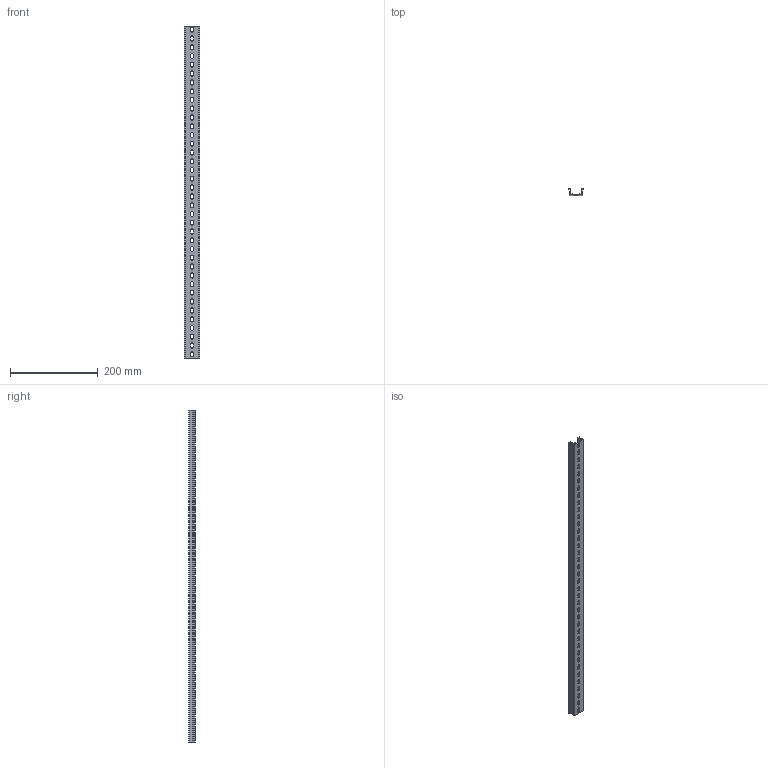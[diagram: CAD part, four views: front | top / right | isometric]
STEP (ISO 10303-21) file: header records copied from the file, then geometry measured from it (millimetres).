
FILE_DESCRIPTION(/* description */ (''),/* implementation_level */ '2;1');
FILE_NAME(/* name */ '22649-(TKB KD-38)HP 3D.stp',/* time_stamp */ '2024-12-05T14:21:49+09:00',/* author */ ('usercadg104'),/* organization */ (''),/* preprocessor_version */ 'ST-DEVELOPER v19.2',/* originating_system */ 'Autodesk Inventor 2023',/* authorisation */ '');
FILE_SCHEMA (('CONFIG_CONTROL_DESIGN'));
Length unit declared in the file: millimetre
Products named in the file (1): TKB KD-3(林)
Bounding box: 35 x 15 x 757 mm (x, y, z)
Volume: 88567.3 mm3; surface area: 102281.4 mm2
Topology: 1 solids, 1 shells, 192 faces, 570 edges, 380 vertices
Faces by surface type: plane 112, cylinder 80
Entity records: 6649 total; most frequent: CARTESIAN_POINT 1143, ORIENTED_EDGE 1140, DIRECTION 1116, EDGE_CURVE 570, LINE 410, VECTOR 410, VERTEX_POINT 380, AXIS2_PLACEMENT_3D 353
